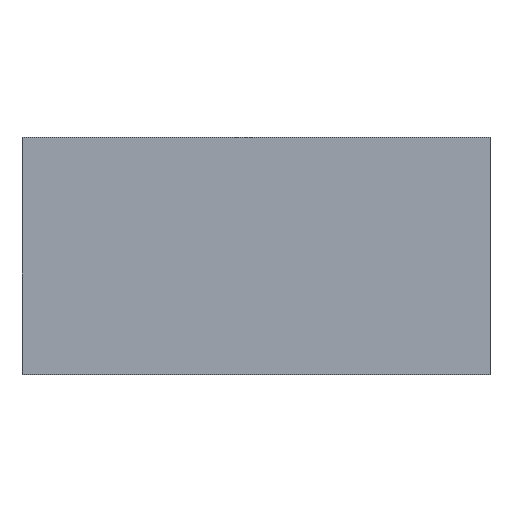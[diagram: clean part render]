
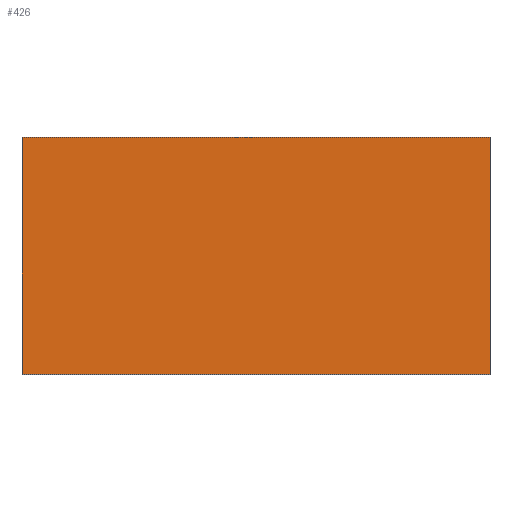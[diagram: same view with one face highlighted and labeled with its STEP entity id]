
A CAD part, top view. The second image highlights one B-rep face of the part: STEP entity #426.
In plain terms, the highlighted planar face has unit normal (0, 0, 1).
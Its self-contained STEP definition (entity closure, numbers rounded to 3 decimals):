
#60=ORIENTED_EDGE('',*,*,#166,.T.);
#61=ORIENTED_EDGE('',*,*,#170,.T.);
#62=ORIENTED_EDGE('',*,*,#173,.T.);
#63=ORIENTED_EDGE('',*,*,#175,.T.);
#166=EDGE_CURVE('',#227,#226,#266,.T.);
#170=EDGE_CURVE('',#226,#229,#270,.T.);
#173=EDGE_CURVE('',#229,#231,#273,.T.);
#175=EDGE_CURVE('',#231,#227,#275,.T.);
#226=VERTEX_POINT('',#658);
#227=VERTEX_POINT('',#660);
#229=VERTEX_POINT('',#666);
#231=VERTEX_POINT('',#672);
#266=LINE('',#659,#310);
#270=LINE('',#667,#314);
#273=LINE('',#673,#317);
#275=LINE('',#676,#319);
#310=VECTOR('',#528,1000.);
#314=VECTOR('',#534,1000.);
#317=VECTOR('',#539,1000.);
#319=VECTOR('',#543,1000.);
#356=EDGE_LOOP('',(#60,#61,#62,#63));
#382=FACE_BOUND('',#356,.T.);
#408=PLANE('',#484);
#426=ADVANCED_FACE('',(#382),#408,.T.);
#484=AXIS2_PLACEMENT_3D('',#677,#544,#545);
#528=DIRECTION('',(0.,1.,0.));
#534=DIRECTION('',(-1.,0.,0.));
#539=DIRECTION('',(0.,-1.,0.));
#543=DIRECTION('',(1.,0.,0.));
#544=DIRECTION('',(0.,0.,1.));
#545=DIRECTION('',(1.,0.,0.));
#658=CARTESIAN_POINT('',(0.81,0.41,0.26));
#659=CARTESIAN_POINT('',(0.81,-0.41,0.26));
#660=CARTESIAN_POINT('',(0.81,-0.41,0.26));
#666=CARTESIAN_POINT('',(-0.81,0.41,0.26));
#667=CARTESIAN_POINT('',(0.81,0.41,0.26));
#672=CARTESIAN_POINT('',(-0.81,-0.41,0.26));
#673=CARTESIAN_POINT('',(-0.81,0.41,0.26));
#676=CARTESIAN_POINT('',(-0.81,-0.41,0.26));
#677=CARTESIAN_POINT('',(0.,0.,0.26));
